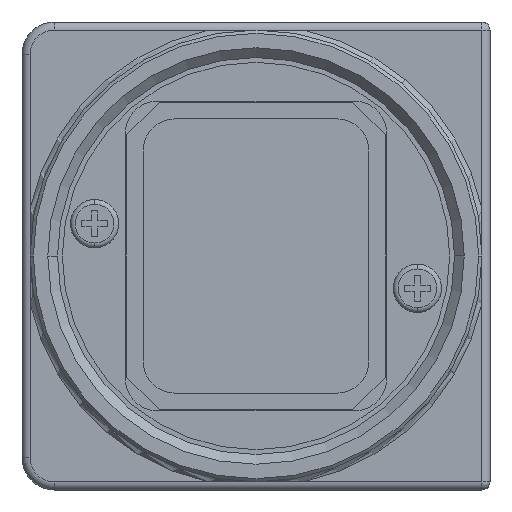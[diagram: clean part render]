
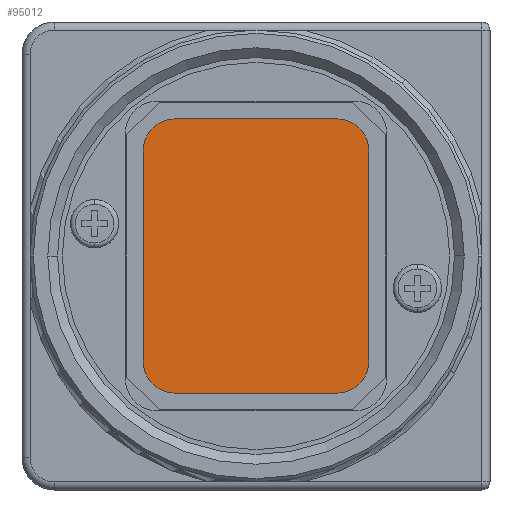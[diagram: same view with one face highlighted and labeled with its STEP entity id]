
A CAD part, left-side view. The second image highlights one B-rep face of the part: STEP entity #95012.
In plain terms, the highlighted planar face has unit normal (-1, 0, 0).
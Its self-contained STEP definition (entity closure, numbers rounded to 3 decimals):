
#29842=DIRECTION('',(0.,1.,0.));
#29843=VECTOR('',#29842,10.);
#29844=CARTESIAN_POINT('',(19.536,42.19,8.5));
#29845=LINE('',#29844,#29843);
#29846=CARTESIAN_POINT('',(19.536,42.19,6.5));
#29847=DIRECTION('',(-1.,0.,0.));
#29848=DIRECTION('',(0.,-1.,0.));
#29849=AXIS2_PLACEMENT_3D('',#29846,#29847,#29848);
#29851=DIRECTION('',(0.,0.,1.));
#29852=VECTOR('',#29851,13.);
#29853=CARTESIAN_POINT('',(19.536,40.19,-6.5));
#29854=LINE('',#29853,#29852);
#29855=CARTESIAN_POINT('',(19.536,42.19,-6.5));
#29856=DIRECTION('',(-1.,0.,0.));
#29857=DIRECTION('',(0.,0.,-1.));
#29858=AXIS2_PLACEMENT_3D('',#29855,#29856,#29857);
#29860=DIRECTION('',(0.,-1.,0.));
#29861=VECTOR('',#29860,10.);
#29862=CARTESIAN_POINT('',(19.536,52.19,-8.5));
#29863=LINE('',#29862,#29861);
#29864=CARTESIAN_POINT('',(19.536,52.19,-6.5));
#29865=DIRECTION('',(-1.,0.,0.));
#29866=DIRECTION('',(0.,1.,0.));
#29867=AXIS2_PLACEMENT_3D('',#29864,#29865,#29866);
#29869=DIRECTION('',(0.,0.,-1.));
#29870=VECTOR('',#29869,13.);
#29871=CARTESIAN_POINT('',(19.536,54.19,6.5));
#29872=LINE('',#29871,#29870);
#29873=CARTESIAN_POINT('',(19.536,52.19,6.5));
#29874=DIRECTION('',(-1.,0.,0.));
#29875=DIRECTION('',(0.,0.,1.));
#29876=AXIS2_PLACEMENT_3D('',#29873,#29874,#29875);
#49379=CARTESIAN_POINT('',(19.536,42.19,8.5));
#49380=VERTEX_POINT('',#49379);
#49381=CARTESIAN_POINT('',(19.536,40.19,6.5));
#49382=VERTEX_POINT('',#49381);
#49383=CARTESIAN_POINT('',(19.536,52.19,8.5));
#49384=VERTEX_POINT('',#49383);
#49385=CARTESIAN_POINT('',(19.536,54.19,6.5));
#49386=VERTEX_POINT('',#49385);
#49387=CARTESIAN_POINT('',(19.536,54.19,-6.5));
#49388=VERTEX_POINT('',#49387);
#49389=CARTESIAN_POINT('',(19.536,52.19,-8.5));
#49390=VERTEX_POINT('',#49389);
#49391=CARTESIAN_POINT('',(19.536,42.19,-8.5));
#49392=VERTEX_POINT('',#49391);
#49393=CARTESIAN_POINT('',(19.536,40.19,-6.5));
#49394=VERTEX_POINT('',#49393);
#94990=CARTESIAN_POINT('',(19.536,52.065,0.));
#94991=DIRECTION('',(1.,0.,0.));
#94992=DIRECTION('',(0.,-1.,0.));
#94993=AXIS2_PLACEMENT_3D('',#94990,#94991,#94992);
#94994=PLANE('',#94993);
#94996=ORIENTED_EDGE('',*,*,#94995,.F.);
#94998=ORIENTED_EDGE('',*,*,#94997,.F.);
#94999=ORIENTED_EDGE('',*,*,#94980,.F.);
#95001=ORIENTED_EDGE('',*,*,#95000,.F.);
#95003=ORIENTED_EDGE('',*,*,#95002,.F.);
#95005=ORIENTED_EDGE('',*,*,#95004,.F.);
#95007=ORIENTED_EDGE('',*,*,#95006,.F.);
#95009=ORIENTED_EDGE('',*,*,#95008,.F.);
#95010=EDGE_LOOP('',(#94996,#94998,#94999,#95001,#95003,#95005,#95007,#95009));
#95011=FACE_OUTER_BOUND('',#95010,.F.);
#95012=ADVANCED_FACE('',(#95011),#94994,.F.);
#29850=CIRCLE('',#29849,2.);
#29859=CIRCLE('',#29858,2.);
#29868=CIRCLE('',#29867,2.);
#29877=CIRCLE('',#29876,2.);
#94980=EDGE_CURVE('',#49394,#49382,#29854,.T.);
#94995=EDGE_CURVE('',#49380,#49384,#29845,.T.);
#94997=EDGE_CURVE('',#49382,#49380,#29850,.T.);
#95000=EDGE_CURVE('',#49392,#49394,#29859,.T.);
#95002=EDGE_CURVE('',#49390,#49392,#29863,.T.);
#95004=EDGE_CURVE('',#49388,#49390,#29868,.T.);
#95006=EDGE_CURVE('',#49386,#49388,#29872,.T.);
#95008=EDGE_CURVE('',#49384,#49386,#29877,.T.);
